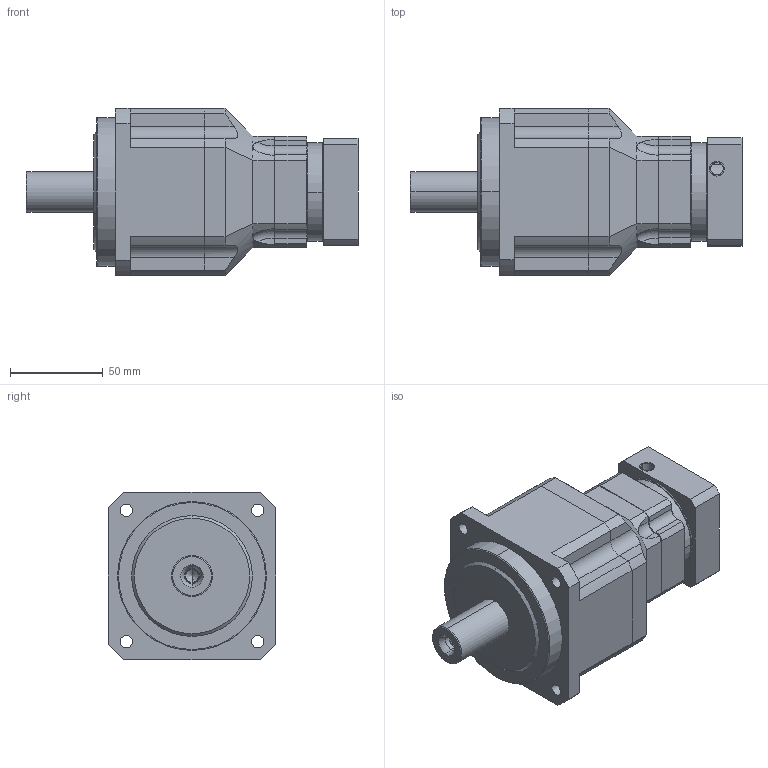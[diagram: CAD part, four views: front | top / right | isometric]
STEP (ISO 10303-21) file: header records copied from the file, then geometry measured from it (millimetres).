
FILE_DESCRIPTION((''),'2;1');
FILE_NAME('AB0902-P0403202201_ASM','2022-09-28T',('Administrator'),(''),'PRO/ENGINEER BY PARAMETRIC TECHNOLOGY CORPORATION, 2015240','PRO/ENGINEER BY PARAMETRIC TECHNOLOGY CORPORATION, 2015240','');
FILE_SCHEMA(('CONFIG_CONTROL_DESIGN'));
Length unit declared in the file: millimetre
Products named in the file (7): P1301200001_D; AB0902-1; AB090; AB-INPUTSHAFT-2; AB0902_ASM; P0403202201-0010; AB0902-P0403202201_ASM
Assembly tree (6 placements, depth 3):
  AB0902-P0403202201_ASM
    AB0902_ASM
      P1301200001_D
      AB0902-1
      AB090
      AB-INPUTSHAFT-2
    P0403202201-0010
Bounding box: 178.5 x 90 x 90 mm (x, y, z)
Volume: 712842.3 mm3; surface area: 94301.1 mm2
Topology: 5 solids, 11 shells, 311 faces, 768 edges, 481 vertices
Faces by surface type: cylinder 145, plane 100, cone 38, torus 24, bspline 4
Entity records: 9881 total; most frequent: CARTESIAN_POINT 2164, DIRECTION 1697, ORIENTED_EDGE 1490, EDGE_CURVE 758, AXIS2_PLACEMENT_3D 676, VERTEX_POINT 481, EDGE_LOOP 365, CIRCLE 348
